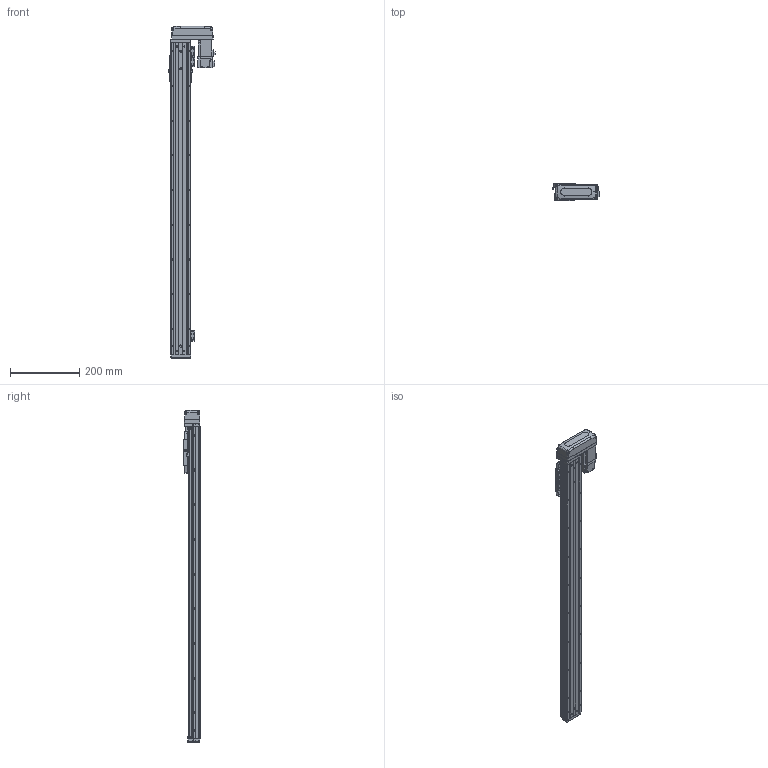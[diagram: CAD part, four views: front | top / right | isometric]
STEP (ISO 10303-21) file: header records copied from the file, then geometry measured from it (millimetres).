
FILE_DESCRIPTION (( 'STEP AP203' ), '1' );
FILE_NAME ('CTHA50-750-BL-M10-C4L.step', '2022-03-19T06:01:02', ( '微软用户' ), ( '微软中国' ), 'SwSTEP 2.0', 'SolidWorks 2020', '' );
FILE_SCHEMA (( 'CONFIG_CONTROL_DESIGN' ));
Length unit declared in the file: millimetre
Products named in the file (20): KTHA50-005; CTHA60-016; CTHA50-015-2_CTHA60-015-2; GB¨uT 70.2-M3¡Á6_M3¡Á6; CTHA60-021; CTHA60-033; EE_SX911P_R; HG-KR13（三菱）; GBT 70.1-M3×15; GBT77-2000 M3×3; CTHA50-002; CTHA50-750-BL-M10-C4L; GBT 70.1-M3℅6; CTHA50-030; KTHA50-001_900; CTHA60-017; CTHA50-031; KTHA50-004; GBT 70.1-M4×12; GBT 70.3-M3℅6
Assembly tree (60 placements, depth 2):
  CTHA50-750-BL-M10-C4L
    KTHA50-001_900
    KTHA50-004
    KTHA50-005
    GB¨uT 70.2-M3¡Á6_M3¡Á6  x10
    EE_SX911P_R  x3
    GBT77-2000 M3×3  x6
    GBT 70.1-M3℅6  x6
    CTHA60-017  x3
    GBT 70.1-M4×12  x10
    CTHA60-016  x2
    CTHA60-021  x2
    HG-KR13（三菱）
    CTHA50-002
    CTHA50-030  x2
    CTHA50-031
    GBT 70.3-M3℅6  x4
    CTHA50-015-2_CTHA60-015-2
    CTHA60-033
    GBT 70.1-M3×15  x4
Bounding box: 132.6 x 48 x 957 mm (x, y, z)
Volume: 1746893.4 mm3; surface area: 443387.4 mm2
Topology: 62 solids, 62 shells, 2593 faces, 6191 edges, 3798 vertices
Faces by surface type: plane 1470, cylinder 606, cone 359, torus 108, bspline 26, sphere 24
Entity records: 45269 total; most frequent: CARTESIAN_POINT 8331, DIRECTION 7085, ORIENTED_EDGE 6890, EDGE_CURVE 3445, VECTOR 2421, LINE 2421, AXIS2_PLACEMENT_3D 2332, VERTEX_POINT 2172
